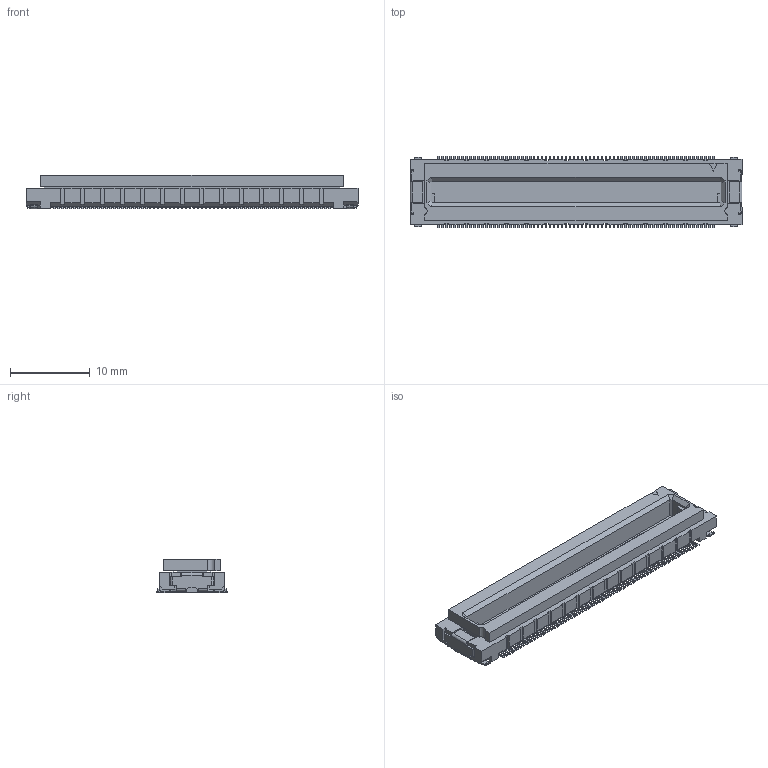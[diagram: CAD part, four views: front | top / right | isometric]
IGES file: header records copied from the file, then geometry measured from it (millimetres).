
Start section: Elysium IGES Interface
Global section: file name: 130HG:\その他\DY関連\CAD\（作り直し）Webリニューアル対応\DY00-XXXS     _(STEP／IGES形式_回覧No.56-36-0002)\①IGES\P39563_DY00-140S.igs; native system: Creo Elements/Direct Modeling 19.0F  14-Feb-2017; preprocessor: Creo Element/Direct IGES_3D V2.2; author: Unknown; organization: Unknown; date: 20170810.141928; units: millimetre
Bounding box: 41.7 x 9 x 4.2 mm (x, y, z)
Volume: 868.6 mm3; surface area: 1879.2 mm2
Topology: 1 solids, 1 shells, 4161 faces, 11619 edges, 7742 vertices
Faces by surface type: bspline 4161
